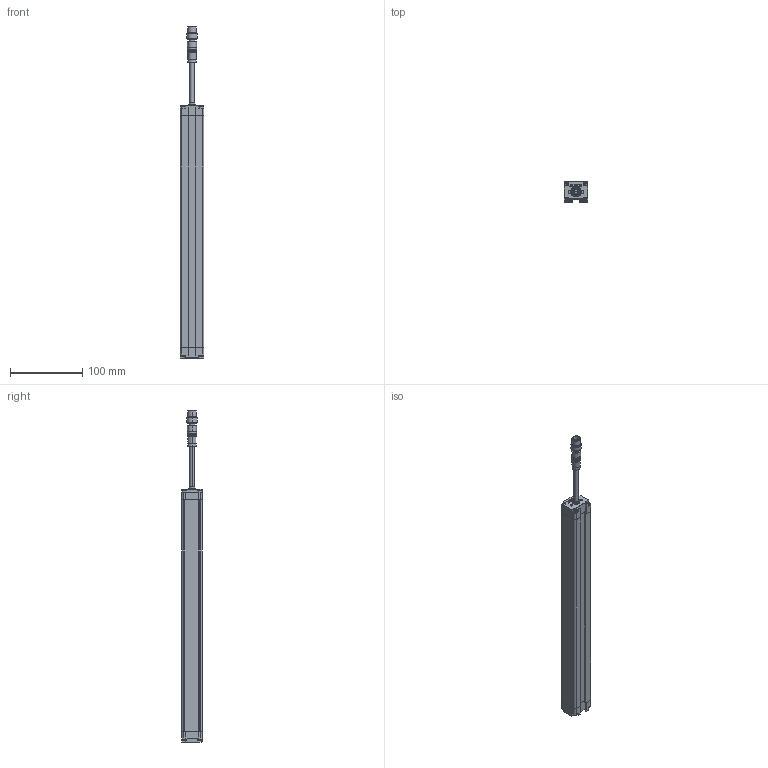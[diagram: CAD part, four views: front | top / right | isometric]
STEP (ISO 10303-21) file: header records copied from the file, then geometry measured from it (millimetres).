
FILE_DESCRIPTION((''),'2;1');
FILE_NAME('SMT1-CGQ_ASM','2025-08-08T08:22:26',('Administrator'),(''),'CREO PARAMETRIC BY PTC INC, 2016510','CREO PARAMETRIC BY PTC INC, 2016510','');
FILE_SCHEMA(('CONFIG_CONTROL_DESIGN'));
Length unit declared in the file: millimetre
Products named in the file (7): SMT1-XINGCAI-V1; SMT1-SDG-V1; SMT1-XDG-V1; M12-CHATOU; ST3X18; CT4-LVGUANGBAN; SMT1-CGQ_ASM
Assembly tree (13 placements, depth 2):
  SMT1-CGQ_ASM
    SMT1-XINGCAI-V1
    SMT1-SDG-V1
    SMT1-XDG-V1
    M12-CHATOU
    ST3X18  x8
    CT4-LVGUANGBAN
Bounding box: 33 x 28.02 x 459.5 mm (x, y, z)
Volume: 276703.8 mm3; surface area: 93762.8 mm2
Topology: 13 solids, 13 shells, 712 faces, 1868 edges, 1200 vertices
Faces by surface type: plane 382, cylinder 184, extrusion 86, sphere 32, cone 20, bspline 8
Entity records: 18128 total; most frequent: CARTESIAN_POINT 4347, ORIENTED_EDGE 2916, DIRECTION 2580, EDGE_CURVE 1458, VECTOR 1036, VERTEX_POINT 955, LINE 950, AXIS2_PLACEMENT_3D 772
